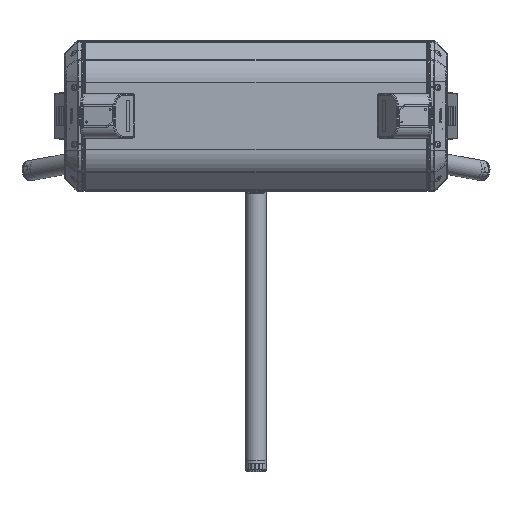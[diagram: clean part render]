
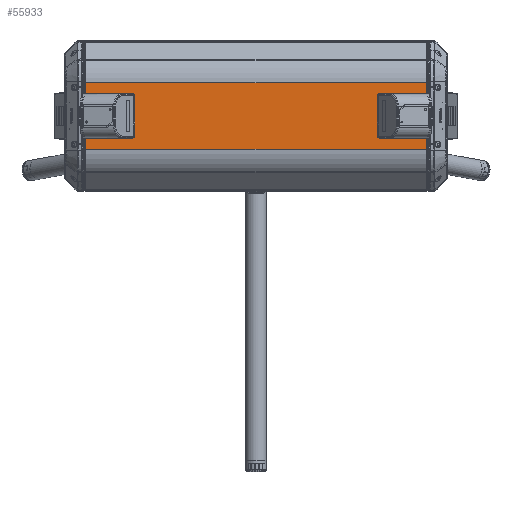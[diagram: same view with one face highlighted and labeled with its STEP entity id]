
A CAD part, top view. The second image highlights one B-rep face of the part: STEP entity #55933.
In plain terms, the highlighted planar face has unit normal (0, 0, 1).
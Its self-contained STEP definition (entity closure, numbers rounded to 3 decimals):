
#3317=PLANE('',#66299);
#7355=LINE('',#107408,#12143);
#7359=LINE('',#107421,#12147);
#7367=LINE('',#107441,#12155);
#7368=LINE('',#107463,#12156);
#12143=VECTOR('',#79621,1000.);
#12147=VECTOR('',#79631,1000.);
#12155=VECTOR('',#79649,1000.);
#12156=VECTOR('',#79672,1000.);
#26178=ORIENTED_EDGE('',*,*,#35827,.F.);
#26179=ORIENTED_EDGE('',*,*,#35828,.F.);
#26180=ORIENTED_EDGE('',*,*,#35829,.F.);
#26181=ORIENTED_EDGE('',*,*,#35830,.F.);
#26182=ORIENTED_EDGE('',*,*,#35831,.F.);
#26183=ORIENTED_EDGE('',*,*,#35832,.F.);
#26184=ORIENTED_EDGE('',*,*,#35833,.F.);
#26185=ORIENTED_EDGE('',*,*,#35834,.F.);
#26186=ORIENTED_EDGE('',*,*,#35835,.F.);
#26187=ORIENTED_EDGE('',*,*,#35836,.F.);
#26188=ORIENTED_EDGE('',*,*,#35809,.T.);
#26189=ORIENTED_EDGE('',*,*,#35837,.F.);
#26190=ORIENTED_EDGE('',*,*,#35815,.F.);
#26191=ORIENTED_EDGE('',*,*,#35826,.T.);
#35809=EDGE_CURVE('',#41604,#41603,#7355,.T.);
#35815=EDGE_CURVE('',#41609,#41610,#7359,.T.);
#35826=EDGE_CURVE('',#41609,#41604,#7367,.T.);
#35827=EDGE_CURVE('',#41617,#41617,#44165,.T.);
#35828=EDGE_CURVE('',#41618,#41618,#44166,.T.);
#35829=EDGE_CURVE('',#41619,#41619,#44167,.T.);
#35830=EDGE_CURVE('',#41620,#41620,#44168,.T.);
#35831=EDGE_CURVE('',#41621,#41621,#44169,.T.);
#35832=EDGE_CURVE('',#41622,#41622,#44170,.T.);
#35833=EDGE_CURVE('',#41623,#41623,#44171,.T.);
#35834=EDGE_CURVE('',#41624,#41624,#44172,.T.);
#35835=EDGE_CURVE('',#41625,#41625,#44173,.T.);
#35836=EDGE_CURVE('',#41626,#41626,#44174,.T.);
#35837=EDGE_CURVE('',#41610,#41603,#7368,.T.);
#41603=VERTEX_POINT('',#107407);
#41604=VERTEX_POINT('',#107409);
#41609=VERTEX_POINT('',#107420);
#41610=VERTEX_POINT('',#107422);
#41617=VERTEX_POINT('',#107444);
#41618=VERTEX_POINT('',#107446);
#41619=VERTEX_POINT('',#107448);
#41620=VERTEX_POINT('',#107450);
#41621=VERTEX_POINT('',#107452);
#41622=VERTEX_POINT('',#107454);
#41623=VERTEX_POINT('',#107456);
#41624=VERTEX_POINT('',#107458);
#41625=VERTEX_POINT('',#107460);
#41626=VERTEX_POINT('',#107462);
#44165=CIRCLE('',#66300,15.);
#44166=CIRCLE('',#66301,15.);
#44167=CIRCLE('',#66302,2.1);
#44168=CIRCLE('',#66303,2.1);
#44169=CIRCLE('',#66304,2.1);
#44170=CIRCLE('',#66305,2.1);
#44171=CIRCLE('',#66306,2.1);
#44172=CIRCLE('',#66307,2.1);
#44173=CIRCLE('',#66308,2.1);
#44174=CIRCLE('',#66309,2.1);
#47645=EDGE_LOOP('',(#26178));
#47646=EDGE_LOOP('',(#26179));
#47647=EDGE_LOOP('',(#26180));
#47648=EDGE_LOOP('',(#26181));
#47649=EDGE_LOOP('',(#26182));
#47650=EDGE_LOOP('',(#26183));
#47651=EDGE_LOOP('',(#26184));
#47652=EDGE_LOOP('',(#26185));
#47653=EDGE_LOOP('',(#26186));
#47654=EDGE_LOOP('',(#26187));
#47655=EDGE_LOOP('',(#26188,#26189,#26190,#26191));
#51567=FACE_BOUND('',#47645,.T.);
#51568=FACE_BOUND('',#47646,.T.);
#51569=FACE_BOUND('',#47647,.T.);
#51570=FACE_BOUND('',#47648,.T.);
#51571=FACE_BOUND('',#47649,.T.);
#51572=FACE_BOUND('',#47650,.T.);
#51573=FACE_BOUND('',#47651,.T.);
#51574=FACE_BOUND('',#47652,.T.);
#51575=FACE_BOUND('',#47653,.T.);
#51576=FACE_BOUND('',#47654,.T.);
#51577=FACE_BOUND('',#47655,.T.);
#55933=ADVANCED_FACE('',(#51567,#51568,#51569,#51570,#51571,#51572,#51573,
#51574,#51575,#51576,#51577),#3317,.F.);
#66299=AXIS2_PLACEMENT_3D('',#107442,#79650,#79651);
#66300=AXIS2_PLACEMENT_3D('',#107443,#79652,#79653);
#66301=AXIS2_PLACEMENT_3D('',#107445,#79654,#79655);
#66302=AXIS2_PLACEMENT_3D('',#107447,#79656,#79657);
#66303=AXIS2_PLACEMENT_3D('',#107449,#79658,#79659);
#66304=AXIS2_PLACEMENT_3D('',#107451,#79660,#79661);
#66305=AXIS2_PLACEMENT_3D('',#107453,#79662,#79663);
#66306=AXIS2_PLACEMENT_3D('',#107455,#79664,#79665);
#66307=AXIS2_PLACEMENT_3D('',#107457,#79666,#79667);
#66308=AXIS2_PLACEMENT_3D('',#107459,#79668,#79669);
#66309=AXIS2_PLACEMENT_3D('',#107461,#79670,#79671);
#79621=DIRECTION('',(0.,1.,0.));
#79631=DIRECTION('',(0.,1.,0.));
#79649=DIRECTION('',(1.,0.,0.));
#79650=DIRECTION('',(0.,0.,-1.));
#79651=DIRECTION('',(0.,1.,0.));
#79652=DIRECTION('',(0.,0.,1.));
#79653=DIRECTION('',(-1.,0.,0.));
#79654=DIRECTION('',(0.,0.,1.));
#79655=DIRECTION('',(-1.,0.,0.));
#79656=DIRECTION('',(0.,0.,1.));
#79657=DIRECTION('',(-1.,0.,0.));
#79658=DIRECTION('',(0.,0.,1.));
#79659=DIRECTION('',(-1.,0.,0.));
#79660=DIRECTION('',(0.,0.,1.));
#79661=DIRECTION('',(-1.,0.,0.));
#79662=DIRECTION('',(0.,0.,1.));
#79663=DIRECTION('',(-1.,0.,0.));
#79664=DIRECTION('',(0.,0.,1.));
#79665=DIRECTION('',(-1.,0.,0.));
#79666=DIRECTION('',(0.,0.,1.));
#79667=DIRECTION('',(-1.,0.,0.));
#79668=DIRECTION('',(0.,0.,1.));
#79669=DIRECTION('',(-1.,0.,0.));
#79670=DIRECTION('',(0.,0.,1.));
#79671=DIRECTION('',(-1.,0.,0.));
#79672=DIRECTION('',(1.,0.,0.));
#107407=CARTESIAN_POINT('',(271.,-67.589,1040.2));
#107408=CARTESIAN_POINT('',(271.,-67.589,1040.2));
#107409=CARTESIAN_POINT('',(271.,-172.411,1040.2));
#107420=CARTESIAN_POINT('',(-271.,-172.411,1040.2));
#107421=CARTESIAN_POINT('',(-271.,-67.589,1040.2));
#107422=CARTESIAN_POINT('',(-271.,-67.589,1040.2));
#107441=CARTESIAN_POINT('',(-271.,-172.411,1040.2));
#107442=CARTESIAN_POINT('',(-271.,-67.589,1040.2));
#107443=CARTESIAN_POINT('',(-222.5,-120.,1040.2));
#107444=CARTESIAN_POINT('',(-237.5,-120.,1040.2));
#107445=CARTESIAN_POINT('',(222.5,-120.,1040.2));
#107446=CARTESIAN_POINT('',(207.5,-120.,1040.2));
#107447=CARTESIAN_POINT('',(-260.5,-148.5,1040.2));
#107448=CARTESIAN_POINT('',(-262.6,-148.5,1040.2));
#107449=CARTESIAN_POINT('',(-260.5,-91.5,1040.2));
#107450=CARTESIAN_POINT('',(-262.6,-91.5,1040.2));
#107451=CARTESIAN_POINT('',(-247.5,-91.5,1040.2));
#107452=CARTESIAN_POINT('',(-249.6,-91.5,1040.2));
#107453=CARTESIAN_POINT('',(-247.5,-148.5,1040.2));
#107454=CARTESIAN_POINT('',(-249.6,-148.5,1040.2));
#107455=CARTESIAN_POINT('',(247.5,-148.5,1040.2));
#107456=CARTESIAN_POINT('',(245.4,-148.5,1040.2));
#107457=CARTESIAN_POINT('',(247.5,-91.5,1040.2));
#107458=CARTESIAN_POINT('',(245.4,-91.5,1040.2));
#107459=CARTESIAN_POINT('',(260.5,-91.5,1040.2));
#107460=CARTESIAN_POINT('',(258.4,-91.5,1040.2));
#107461=CARTESIAN_POINT('',(260.5,-148.5,1040.2));
#107462=CARTESIAN_POINT('',(258.4,-148.5,1040.2));
#107463=CARTESIAN_POINT('',(-271.,-67.589,1040.2));
